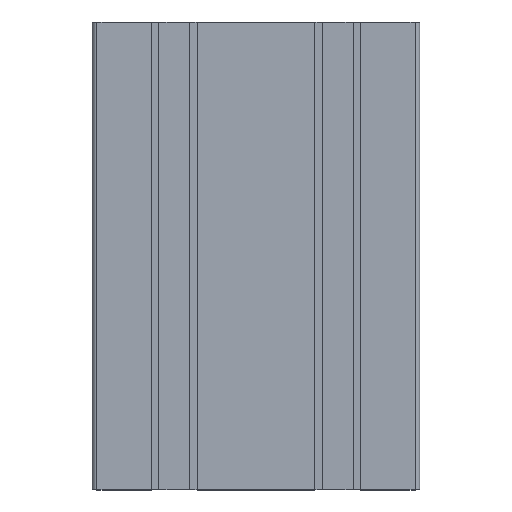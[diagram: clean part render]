
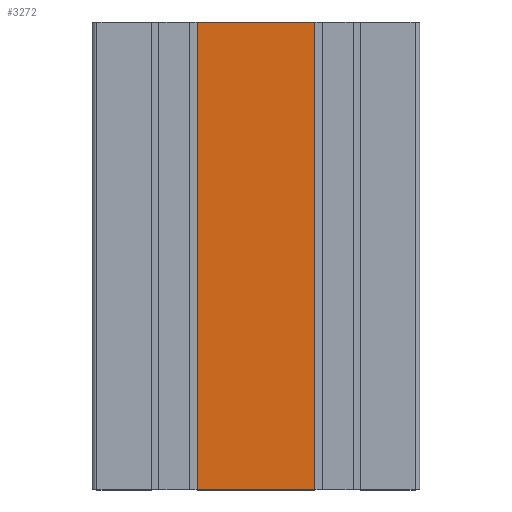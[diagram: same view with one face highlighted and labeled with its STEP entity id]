
A CAD part, top view. The second image highlights one B-rep face of the part: STEP entity #3272.
In plain terms, the highlighted planar face has unit normal (0, 0, 1).
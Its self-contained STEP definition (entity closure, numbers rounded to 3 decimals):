
#172=FACE_OUTER_BOUND('',#334,.T.);
#334=EDGE_LOOP('',(#2387,#2388,#2389,#2390));
#612=LINE('',#4858,#1044);
#613=LINE('',#4861,#1045);
#614=LINE('',#4863,#1046);
#615=LINE('',#4864,#1047);
#1044=VECTOR('',#3972,100.);
#1045=VECTOR('',#3975,25.2);
#1046=VECTOR('',#3976,25.2);
#1047=VECTOR('',#3977,100.);
#1445=VERTEX_POINT('',#4854);
#1446=VERTEX_POINT('',#4856);
#1447=VERTEX_POINT('',#4860);
#1448=VERTEX_POINT('',#4862);
#1836=EDGE_CURVE('',#1445,#1446,#612,.T.);
#1837=EDGE_CURVE('',#1445,#1447,#613,.T.);
#1838=EDGE_CURVE('',#1448,#1446,#614,.T.);
#1839=EDGE_CURVE('',#1447,#1448,#615,.T.);
#2387=ORIENTED_EDGE('',*,*,#1837,.F.);
#2388=ORIENTED_EDGE('',*,*,#1836,.T.);
#2389=ORIENTED_EDGE('',*,*,#1838,.F.);
#2390=ORIENTED_EDGE('',*,*,#1839,.F.);
#3114=PLANE('',#3476);
#3272=ADVANCED_FACE('',(#172),#3114,.T.);
#3476=AXIS2_PLACEMENT_3D('',#4859,#3973,#3974);
#3972=DIRECTION('',(0.,1.,0.));
#3973=DIRECTION('center_axis',(0.,0.,1.));
#3974=DIRECTION('ref_axis',(1.,0.,0.));
#3975=DIRECTION('',(-1.,0.,0.));
#3976=DIRECTION('',(1.,0.,0.));
#3977=DIRECTION('',(0.,1.,0.));
#4854=CARTESIAN_POINT('',(48.741,0.,-1.078));
#4856=CARTESIAN_POINT('',(48.741,100.,-1.078));
#4858=CARTESIAN_POINT('',(48.741,0.,-1.078));
#4859=CARTESIAN_POINT('Origin',(23.541,0.,-1.078));
#4860=CARTESIAN_POINT('',(23.541,0.,-1.078));
#4861=CARTESIAN_POINT('',(48.741,0.,-1.078));
#4862=CARTESIAN_POINT('',(23.541,100.,-1.078));
#4863=CARTESIAN_POINT('',(48.741,100.,-1.078));
#4864=CARTESIAN_POINT('',(23.541,0.,-1.078));
